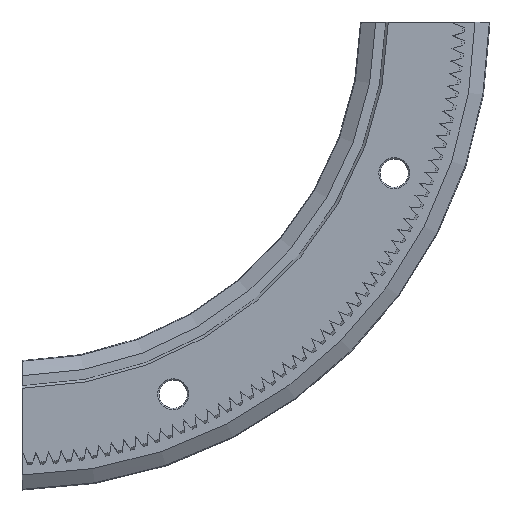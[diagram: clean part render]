
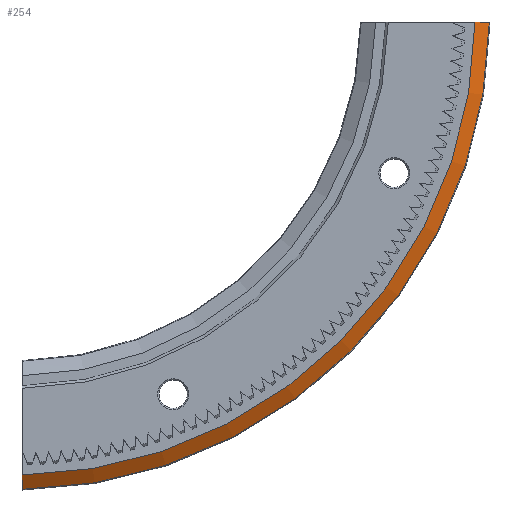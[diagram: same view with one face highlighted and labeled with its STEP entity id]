
A CAD part, front view. The second image highlights one B-rep face of the part: STEP entity #254.
In plain terms, the highlighted conical face has half-angle 55 degrees and reference radius 89.157 mm.
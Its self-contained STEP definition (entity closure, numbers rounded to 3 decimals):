
#254 = ADVANCED_FACE( '', ( #784 ), #785, .T. );
#784 = FACE_OUTER_BOUND( '', #1492, .T. );
#785 = CONICAL_SURFACE( '', #1493, 89.157, 0.96 );
#1492 = EDGE_LOOP( '', ( #3428, #3429, #3430, #3431 ) );
#1493 = AXIS2_PLACEMENT_3D( '', #3432, #3433, #3434 );
#3428 = ORIENTED_EDGE( '', *, *, #5458, .T. );
#3429 = ORIENTED_EDGE( '', *, *, #5459, .T. );
#3430 = ORIENTED_EDGE( '', *, *, #5460, .F. );
#3431 = ORIENTED_EDGE( '', *, *, #4739, .T. );
#3432 = CARTESIAN_POINT( '', ( 0., 7.75, 0. ) );
#3433 = DIRECTION( '', ( 0., 1., 0. ) );
#3434 = DIRECTION( '', ( 0., 0., 1. ) );
#4739 = EDGE_CURVE( '', #5678, #5676, #5679, .T. );
#5458 = EDGE_CURVE( '', #5676, #6938, #6939, .T. );
#5459 = EDGE_CURVE( '', #6938, #6940, #6941, .T. );
#5460 = EDGE_CURVE( '', #5678, #6940, #6942, .T. );
#5676 = VERTEX_POINT( '', #7208 );
#5678 = VERTEX_POINT( '', #7217 );
#5679 = B_SPLINE_CURVE_WITH_KNOTS( '', 3, ( #7218, #7219, #7220, #7221 ), .UNSPECIFIED., .F., .F., ( 4, 4 ), ( 0.048, 0.052 ), .UNSPECIFIED. );
#6938 = VERTEX_POINT( '', #9299 );
#6939 = CIRCLE( '', #9300, 91.937 );
#6940 = VERTEX_POINT( '', #9301 );
#6941 = B_SPLINE_CURVE_WITH_KNOTS( '', 3, ( #9302, #9303, #9304, #9305 ), .UNSPECIFIED., .F., .F., ( 4, 4 ), ( 0.082, 0.086 ), .UNSPECIFIED. );
#6942 = CIRCLE( '', #9306, 89.157 );
#7208 = CARTESIAN_POINT( '', ( 1., 9.697, -91.932 ) );
#7217 = CARTESIAN_POINT( '', ( 1., 7.75, -89.151 ) );
#7218 = CARTESIAN_POINT( '', ( 1., 7.75, -89.151 ) );
#7219 = CARTESIAN_POINT( '', ( 1., 8.399, -90.078 ) );
#7220 = CARTESIAN_POINT( '', ( 1., 9.048, -91.005 ) );
#7221 = CARTESIAN_POINT( '', ( 1., 9.697, -91.932 ) );
#9299 = CARTESIAN_POINT( '', ( 91.932, 9.697, -1. ) );
#9300 = AXIS2_PLACEMENT_3D( '', #10377, #10378, #10379 );
#9301 = CARTESIAN_POINT( '', ( 89.151, 7.75, -1. ) );
#9302 = CARTESIAN_POINT( '', ( 91.932, 9.697, -1. ) );
#9303 = CARTESIAN_POINT( '', ( 91.005, 9.048, -1. ) );
#9304 = CARTESIAN_POINT( '', ( 90.078, 8.399, -1. ) );
#9305 = CARTESIAN_POINT( '', ( 89.151, 7.75, -1. ) );
#9306 = AXIS2_PLACEMENT_3D( '', #10380, #10381, #10382 );
#10377 = CARTESIAN_POINT( '', ( 0., 9.697, 0. ) );
#10378 = DIRECTION( '', ( 0., -1., 0. ) );
#10379 = DIRECTION( '', ( 0., 0., -1. ) );
#10380 = CARTESIAN_POINT( '', ( 0., 7.75, 0. ) );
#10381 = DIRECTION( '', ( 0., -1., 0. ) );
#10382 = DIRECTION( '', ( 0., 0., -1. ) );
